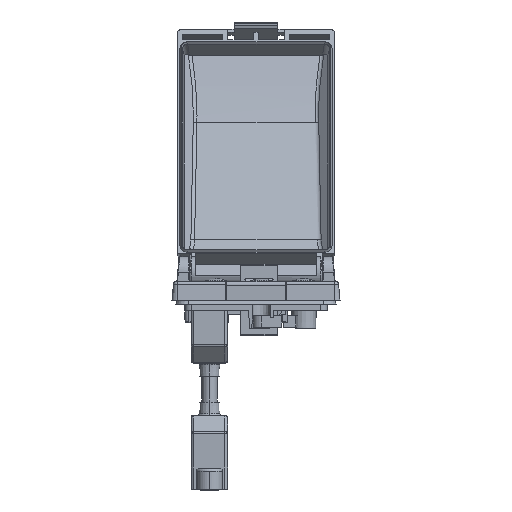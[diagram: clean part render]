
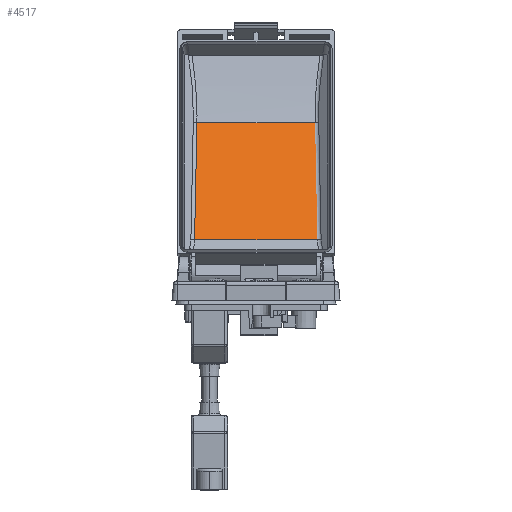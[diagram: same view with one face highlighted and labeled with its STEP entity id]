
A CAD part, left-side view. The second image highlights one B-rep face of the part: STEP entity #4517.
In plain terms, the highlighted planar face has unit normal (-0.865, 0, 0.502).
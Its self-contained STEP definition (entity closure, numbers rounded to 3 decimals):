
#428 = DIRECTION ( 'NONE',  ( 0.502, -0.017, 0.865 ) ) ;
#883 = ORIENTED_EDGE ( 'NONE', *, *, #11422, .T. ) ;
#2998 = VECTOR ( 'NONE', #78719, 1000. ) ;
#4517 = ADVANCED_FACE ( 'NONE', ( #17407 ), #49350, .F. ) ;
#6969 = EDGE_CURVE ( 'NONE', #30167, #29389, #27942, .T. ) ;
#10690 = CARTESIAN_POINT ( 'NONE',  ( 80.377, 196.379, 31.179 ) ) ;
#11030 = CARTESIAN_POINT ( 'NONE',  ( 97.905, 189.435, 61.35 ) ) ;
#11422 = EDGE_CURVE ( 'NONE', #56688, #29389, #40177, .T. ) ;
#16893 = CARTESIAN_POINT ( 'NONE',  ( 97.905, 189.435, 61.35 ) ) ;
#17217 = CARTESIAN_POINT ( 'NONE',  ( 97.905, 196.988, 61.35 ) ) ;
#17407 = FACE_OUTER_BOUND ( 'NONE', #76333, .T. ) ;
#18375 = CARTESIAN_POINT ( 'NONE',  ( 71.612, 189.435, 16.093 ) ) ;
#27189 = CARTESIAN_POINT ( 'NONE',  ( 71.612, 196.074, 16.093 ) ) ;
#27942 = LINE ( 'NONE', #57306, #33841 ) ;
#28421 = ORIENTED_EDGE ( 'NONE', *, *, #49071, .F. ) ;
#29389 = VERTEX_POINT ( 'NONE', #56963 ) ;
#30167 = VERTEX_POINT ( 'NONE', #66933 ) ;
#33841 = VECTOR ( 'NONE', #428, 1000. ) ;
#34593 = ORIENTED_EDGE ( 'NONE', *, *, #65956, .T. ) ;
#40177 = LINE ( 'NONE', #16893, #2998 ) ;
#42181 = LINE ( 'NONE', #18375, #46161 ) ;
#44290 = AXIS2_PLACEMENT_3D ( 'NONE', #11030, #54836, #61394 ) ;
#45246 = B_SPLINE_CURVE_WITH_KNOTS ( 'NONE', 3,
 ( #60776, #10690, #73057, #17217 ),
 .UNSPECIFIED., .F., .F.,
 ( 4, 4 ),
 ( 0., 1. ),
 .UNSPECIFIED. ) ;
#46161 = VECTOR ( 'NONE', #80461, 1000. ) ;
#49071 = EDGE_CURVE ( 'NONE', #58860, #30167, #42181, .T. ) ;
#49350 = PLANE ( 'NONE',  #44290 ) ;
#54836 = DIRECTION ( 'NONE',  ( 0.865, 0., -0.502 ) ) ;
#56688 = VERTEX_POINT ( 'NONE', #58636 ) ;
#56963 = CARTESIAN_POINT ( 'NONE',  ( 97.905, 242.682, 61.35 ) ) ;
#57306 = CARTESIAN_POINT ( 'NONE',  ( 71.612, 243.595, 16.093 ) ) ;
#58636 = CARTESIAN_POINT ( 'NONE',  ( 97.905, 196.988, 61.35 ) ) ;
#58860 = VERTEX_POINT ( 'NONE', #27189 ) ;
#60776 = CARTESIAN_POINT ( 'NONE',  ( 71.612, 196.074, 16.093 ) ) ;
#61394 = DIRECTION ( 'NONE',  ( -0.502, 0., -0.865 ) ) ;
#65956 = EDGE_CURVE ( 'NONE', #58860, #56688, #45246, .T. ) ;
#66933 = CARTESIAN_POINT ( 'NONE',  ( 71.612, 243.595, 16.093 ) ) ;
#73057 = CARTESIAN_POINT ( 'NONE',  ( 89.141, 196.683, 46.264 ) ) ;
#76333 = EDGE_LOOP ( 'NONE', ( #80292, #28421, #34593, #883 ) ) ;
#78719 = DIRECTION ( 'NONE',  ( 0., 1., 0. ) ) ;
#80292 = ORIENTED_EDGE ( 'NONE', *, *, #6969, .F. ) ;
#80461 = DIRECTION ( 'NONE',  ( 0., 1., 0. ) ) ;
